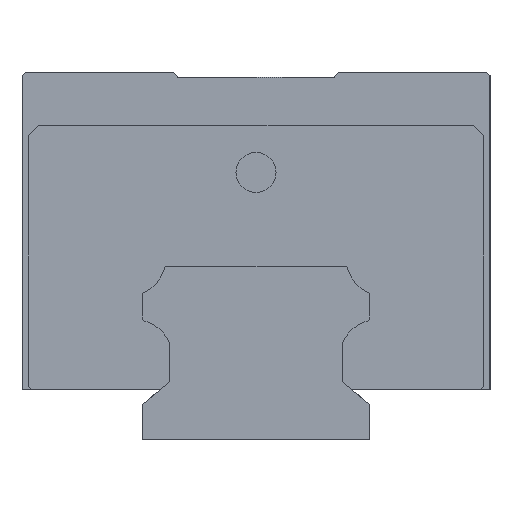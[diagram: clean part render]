
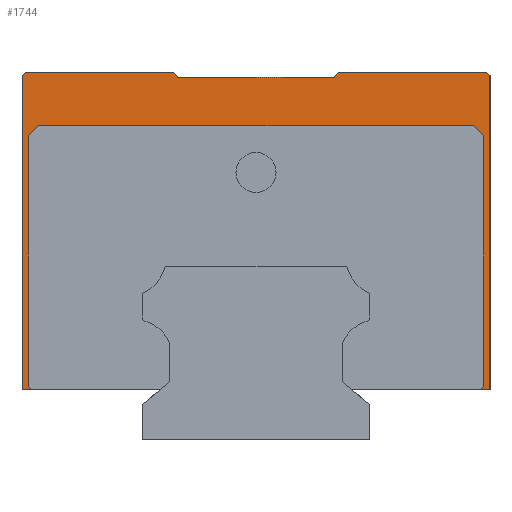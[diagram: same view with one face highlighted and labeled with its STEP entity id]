
A CAD part, left-side view. The second image highlights one B-rep face of the part: STEP entity #1744.
In plain terms, the highlighted planar face has unit normal (-1, 0, 0).
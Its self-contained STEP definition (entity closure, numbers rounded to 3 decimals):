
#12 = VECTOR ( 'NONE', #4297, 1000. ) ;
#35 = VERTEX_POINT ( 'NONE', #3649 ) ;
#48 = LINE ( 'NONE', #1727, #12 ) ;
#92 = CARTESIAN_POINT ( 'NONE',  ( -61.5, -35., 7.5 ) ) ;
#107 = VERTEX_POINT ( 'NONE', #4123 ) ;
#140 = VECTOR ( 'NONE', #5140, 1000. ) ;
#200 = CARTESIAN_POINT ( 'NONE',  ( -61.5, 35., 54.5 ) ) ;
#219 = ORIENTED_EDGE ( 'NONE', *, *, #5046, .F. ) ;
#276 = EDGE_CURVE ( 'NONE', #5387, #107, #4348, .T. ) ;
#340 = CARTESIAN_POINT ( 'NONE',  ( -61.5, 12.296, 55. ) ) ;
#394 = EDGE_CURVE ( 'NONE', #2871, #5184, #1152, .T. ) ;
#482 = CARTESIAN_POINT ( 'NONE',  ( -61.5, -33.998, 8. ) ) ;
#488 = VECTOR ( 'NONE', #4498, 1000. ) ;
#494 = CARTESIAN_POINT ( 'NONE',  ( -61.5, -33.498, 7.5 ) ) ;
#593 = VERTEX_POINT ( 'NONE', #5446 ) ;
#658 = EDGE_CURVE ( 'NONE', #2414, #2003, #48, .T. ) ;
#712 = CARTESIAN_POINT ( 'NONE',  ( -61.5, -35., 55. ) ) ;
#729 = ORIENTED_EDGE ( 'NONE', *, *, #2565, .F. ) ;
#811 = CARTESIAN_POINT ( 'NONE',  ( -61.5, -33.498, 7.5 ) ) ;
#869 = ORIENTED_EDGE ( 'NONE', *, *, #1542, .T. ) ;
#872 = VECTOR ( 'NONE', #987, 1000. ) ;
#884 = DIRECTION ( 'NONE',  ( 0., 1., 0. ) ) ;
#906 = DIRECTION ( 'NONE',  ( 0., 0., 1. ) ) ;
#936 = FACE_OUTER_BOUND ( 'NONE', #1585, .T. ) ;
#953 = DIRECTION ( 'NONE',  ( 0., 1., 0. ) ) ;
#961 = PLANE ( 'NONE',  #2669 ) ;
#987 = DIRECTION ( 'NONE',  ( 0., 0.707, -0.707 ) ) ;
#1068 = DIRECTION ( 'NONE',  ( 0., -0.707, -0.707 ) ) ;
#1070 = VECTOR ( 'NONE', #3873, 1000. ) ;
#1106 = ORIENTED_EDGE ( 'NONE', *, *, #4089, .F. ) ;
#1123 = CARTESIAN_POINT ( 'NONE',  ( -61.5, 35., 7.5 ) ) ;
#1145 = ORIENTED_EDGE ( 'NONE', *, *, #4904, .F. ) ;
#1152 = LINE ( 'NONE', #712, #4199 ) ;
#1314 = DIRECTION ( 'NONE',  ( 0., 1., 0. ) ) ;
#1338 = VECTOR ( 'NONE', #5148, 1000. ) ;
#1343 = CARTESIAN_POINT ( 'NONE',  ( -61.5, 34.002, 8. ) ) ;
#1351 = LINE ( 'NONE', #3079, #872 ) ;
#1382 = VERTEX_POINT ( 'NONE', #2315 ) ;
#1408 = VECTOR ( 'NONE', #1068, 1000. ) ;
#1454 = CARTESIAN_POINT ( 'NONE',  ( -61.5, -35., 7.5 ) ) ;
#1457 = VECTOR ( 'NONE', #4028, 1000. ) ;
#1542 = EDGE_CURVE ( 'NONE', #5250, #2346, #4464, .T. ) ;
#1574 = VERTEX_POINT ( 'NONE', #2695 ) ;
#1585 = EDGE_LOOP ( 'NONE', ( #2587, #5099, #3202, #4939, #1145, #4111, #2930, #869, #729, #2424, #4259, #219, #1910, #3386, #4280, #1106, #4496, #1837 ) ) ;
#1686 = LINE ( 'NONE', #2481, #4639 ) ;
#1701 = DIRECTION ( 'NONE',  ( 0., 0.707, 0.707 ) ) ;
#1727 = CARTESIAN_POINT ( 'NONE',  ( -61.5, -12.296, 55. ) ) ;
#1733 = VECTOR ( 'NONE', #2360, 1000. ) ;
#1744 = ADVANCED_FACE ( 'NONE', ( #936 ), #961, .F. ) ;
#1824 = CARTESIAN_POINT ( 'NONE',  ( -61.5, -35., 55. ) ) ;
#1837 = ORIENTED_EDGE ( 'NONE', *, *, #4057, .F. ) ;
#1910 = ORIENTED_EDGE ( 'NONE', *, *, #276, .F. ) ;
#2003 = VERTEX_POINT ( 'NONE', #2050 ) ;
#2050 = CARTESIAN_POINT ( 'NONE',  ( -61.5, -11.667, 54.25 ) ) ;
#2091 = DIRECTION ( 'NONE',  ( 0., 0., -1. ) ) ;
#2119 = CARTESIAN_POINT ( 'NONE',  ( -61.5, 34.002, 45.5 ) ) ;
#2142 = VERTEX_POINT ( 'NONE', #200 ) ;
#2179 = LINE ( 'NONE', #494, #1338 ) ;
#2268 = EDGE_CURVE ( 'NONE', #35, #2142, #4917, .T. ) ;
#2315 = CARTESIAN_POINT ( 'NONE',  ( -61.5, 32.502, 47. ) ) ;
#2346 = VERTEX_POINT ( 'NONE', #340 ) ;
#2360 = DIRECTION ( 'NONE',  ( 0., 0.643, 0.766 ) ) ;
#2382 = DIRECTION ( 'NONE',  ( 0., 0., 1. ) ) ;
#2414 = VERTEX_POINT ( 'NONE', #5055 ) ;
#2424 = ORIENTED_EDGE ( 'NONE', *, *, #2268, .T. ) ;
#2439 = EDGE_CURVE ( 'NONE', #1574, #5387, #3400, .T. ) ;
#2481 = CARTESIAN_POINT ( 'NONE',  ( -61.5, 14.65, 7.5 ) ) ;
#2565 = EDGE_CURVE ( 'NONE', #35, #2346, #3571, .T. ) ;
#2580 = LINE ( 'NONE', #3044, #3458 ) ;
#2587 = ORIENTED_EDGE ( 'NONE', *, *, #4093, .F. ) ;
#2593 = DIRECTION ( 'NONE',  ( 0., 1., 0. ) ) ;
#2597 = LINE ( 'NONE', #92, #140 ) ;
#2661 = EDGE_CURVE ( 'NONE', #593, #2142, #4899, .T. ) ;
#2669 = AXIS2_PLACEMENT_3D ( 'NONE', #1824, #3076, #884 ) ;
#2695 = CARTESIAN_POINT ( 'NONE',  ( -61.5, 34.002, 45.5 ) ) ;
#2757 = LINE ( 'NONE', #3704, #1457 ) ;
#2812 = CARTESIAN_POINT ( 'NONE',  ( -61.5, -34.5, 55. ) ) ;
#2867 = CARTESIAN_POINT ( 'NONE',  ( -61.5, -33.998, 45.5 ) ) ;
#2871 = VERTEX_POINT ( 'NONE', #5166 ) ;
#2897 = VECTOR ( 'NONE', #2382, 1000. ) ;
#2930 = ORIENTED_EDGE ( 'NONE', *, *, #4058, .T. ) ;
#2942 = VERTEX_POINT ( 'NONE', #2867 ) ;
#3044 = CARTESIAN_POINT ( 'NONE',  ( -61.5, -32.628, 47. ) ) ;
#3052 = VERTEX_POINT ( 'NONE', #2812 ) ;
#3076 = DIRECTION ( 'NONE',  ( 1., 0., 0. ) ) ;
#3079 = CARTESIAN_POINT ( 'NONE',  ( -61.5, 32.502, 47. ) ) ;
#3202 = ORIENTED_EDGE ( 'NONE', *, *, #394, .F. ) ;
#3261 = CARTESIAN_POINT ( 'NONE',  ( -61.5, 34.5, 55. ) ) ;
#3310 = LINE ( 'NONE', #4574, #1070 ) ;
#3334 = EDGE_CURVE ( 'NONE', #1382, #1574, #1351, .T. ) ;
#3367 = VECTOR ( 'NONE', #1701, 1000. ) ;
#3369 = LINE ( 'NONE', #5050, #3367 ) ;
#3386 = ORIENTED_EDGE ( 'NONE', *, *, #2439, .F. ) ;
#3400 = LINE ( 'NONE', #2119, #5284 ) ;
#3458 = VECTOR ( 'NONE', #1314, 1000. ) ;
#3571 = LINE ( 'NONE', #5345, #4132 ) ;
#3595 = EDGE_CURVE ( 'NONE', #2871, #3052, #3369, .T. ) ;
#3649 = CARTESIAN_POINT ( 'NONE',  ( -61.5, 34.5, 55. ) ) ;
#3654 = EDGE_CURVE ( 'NONE', #2942, #4352, #3310, .T. ) ;
#3661 = CARTESIAN_POINT ( 'NONE',  ( -61.5, 11.667, 54.25 ) ) ;
#3704 = CARTESIAN_POINT ( 'NONE',  ( -61.5, 35., 55. ) ) ;
#3873 = DIRECTION ( 'NONE',  ( 0., 0.707, 0.707 ) ) ;
#4028 = DIRECTION ( 'NONE',  ( 0., -1., 0. ) ) ;
#4057 = EDGE_CURVE ( 'NONE', #5054, #2942, #4346, .T. ) ;
#4058 = EDGE_CURVE ( 'NONE', #2003, #5250, #4751, .T. ) ;
#4072 = DIRECTION ( 'NONE',  ( 0., 0., -1. ) ) ;
#4089 = EDGE_CURVE ( 'NONE', #4352, #1382, #2580, .T. ) ;
#4093 = EDGE_CURVE ( 'NONE', #4924, #5054, #2179, .T. ) ;
#4111 = ORIENTED_EDGE ( 'NONE', *, *, #658, .T. ) ;
#4123 = CARTESIAN_POINT ( 'NONE',  ( -61.5, 33.502, 7.5 ) ) ;
#4132 = VECTOR ( 'NONE', #4780, 1000. ) ;
#4150 = CARTESIAN_POINT ( 'NONE',  ( -61.5, -32.498, 47. ) ) ;
#4199 = VECTOR ( 'NONE', #4072, 1000. ) ;
#4259 = ORIENTED_EDGE ( 'NONE', *, *, #2661, .F. ) ;
#4280 = ORIENTED_EDGE ( 'NONE', *, *, #3334, .F. ) ;
#4295 = CARTESIAN_POINT ( 'NONE',  ( -61.5, -33.998, 8. ) ) ;
#4297 = DIRECTION ( 'NONE',  ( 0., 0.643, -0.766 ) ) ;
#4346 = LINE ( 'NONE', #4295, #5398 ) ;
#4348 = LINE ( 'NONE', #4454, #1408 ) ;
#4352 = VERTEX_POINT ( 'NONE', #4150 ) ;
#4439 = CARTESIAN_POINT ( 'NONE',  ( -61.5, 11.667, 54.25 ) ) ;
#4454 = CARTESIAN_POINT ( 'NONE',  ( -61.5, 34.002, 8. ) ) ;
#4464 = LINE ( 'NONE', #4439, #1733 ) ;
#4496 = ORIENTED_EDGE ( 'NONE', *, *, #3654, .F. ) ;
#4498 = DIRECTION ( 'NONE',  ( 0., 0.707, -0.707 ) ) ;
#4574 = CARTESIAN_POINT ( 'NONE',  ( -61.5, -33.998, 45.5 ) ) ;
#4639 = VECTOR ( 'NONE', #2593, 1000. ) ;
#4687 = VECTOR ( 'NONE', #953, 1000. ) ;
#4725 = CARTESIAN_POINT ( 'NONE',  ( -61.5, -11.667, 54.25 ) ) ;
#4749 = EDGE_CURVE ( 'NONE', #5184, #4924, #2597, .T. ) ;
#4751 = LINE ( 'NONE', #4725, #4687 ) ;
#4780 = DIRECTION ( 'NONE',  ( 0., -1., 0. ) ) ;
#4899 = LINE ( 'NONE', #1123, #2897 ) ;
#4904 = EDGE_CURVE ( 'NONE', #2414, #3052, #2757, .T. ) ;
#4917 = LINE ( 'NONE', #3261, #488 ) ;
#4924 = VERTEX_POINT ( 'NONE', #811 ) ;
#4939 = ORIENTED_EDGE ( 'NONE', *, *, #3595, .T. ) ;
#5046 = EDGE_CURVE ( 'NONE', #107, #593, #1686, .T. ) ;
#5050 = CARTESIAN_POINT ( 'NONE',  ( -61.5, -35., 54.5 ) ) ;
#5054 = VERTEX_POINT ( 'NONE', #482 ) ;
#5055 = CARTESIAN_POINT ( 'NONE',  ( -61.5, -12.296, 55. ) ) ;
#5099 = ORIENTED_EDGE ( 'NONE', *, *, #4749, .F. ) ;
#5140 = DIRECTION ( 'NONE',  ( 0., 1., 0. ) ) ;
#5148 = DIRECTION ( 'NONE',  ( 0., -0.707, 0.707 ) ) ;
#5166 = CARTESIAN_POINT ( 'NONE',  ( -61.5, -35., 54.5 ) ) ;
#5184 = VERTEX_POINT ( 'NONE', #1454 ) ;
#5250 = VERTEX_POINT ( 'NONE', #3661 ) ;
#5284 = VECTOR ( 'NONE', #2091, 1000. ) ;
#5345 = CARTESIAN_POINT ( 'NONE',  ( -61.5, 35., 55. ) ) ;
#5387 = VERTEX_POINT ( 'NONE', #1343 ) ;
#5398 = VECTOR ( 'NONE', #906, 1000. ) ;
#5446 = CARTESIAN_POINT ( 'NONE',  ( -61.5, 35., 7.5 ) ) ;
